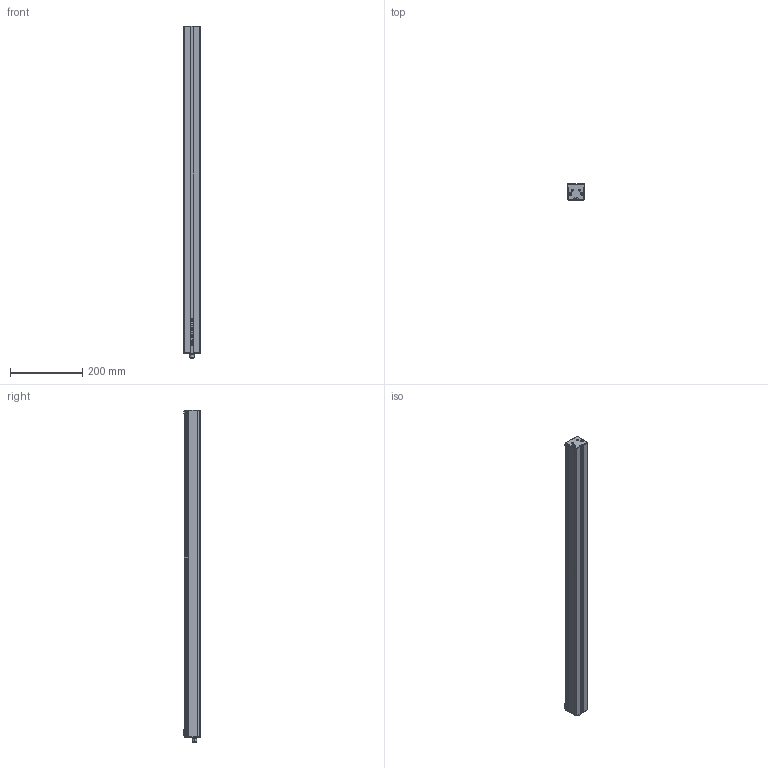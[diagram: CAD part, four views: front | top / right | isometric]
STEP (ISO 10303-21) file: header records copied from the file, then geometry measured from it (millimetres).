
FILE_DESCRIPTION (( 'STEP AP214' ), '1' );
FILE_NAME ('EBAR-EC-875-xxx-xx_CLIENT.STEP', '2026-06-04T10:51:03', ( '' ), ( '' ), 'SwSTEP 2.0', 'SolidWorks 2025', '' );
FILE_SCHEMA (( 'AUTOMOTIVE_DESIGN' ));
Length unit declared in the file: millimetre
Products named in the file (3): EBAR-EC-xxx-xxx-xx_CLIENT_875; EBAR-EC-875-xxx-xx_CLIENT; 1-X2014-01-3-A
Assembly tree (5 placements, depth 2):
  EBAR-EC-875-xxx-xx_CLIENT
    EBAR-EC-xxx-xxx-xx_CLIENT_875
    1-X2014-01-3-A  x4
Bounding box: 47.63 x 45 x 920.06 mm (x, y, z)
Volume: 1604300.2 mm3; surface area: 194706.7 mm2
Topology: 5 solids, 5 shells, 785 faces, 2005 edges, 1288 vertices
Faces by surface type: plane 341, cylinder 227, bspline 131, torus 62, cone 20, sphere 4
Entity records: 26495 total; most frequent: CARTESIAN_POINT 9555, ORIENTED_EDGE 3600, DIRECTION 3087, EDGE_CURVE 1800, VERTEX_POINT 1163, AXIS2_PLACEMENT_3D 1067, LINE 953, VECTOR 953
